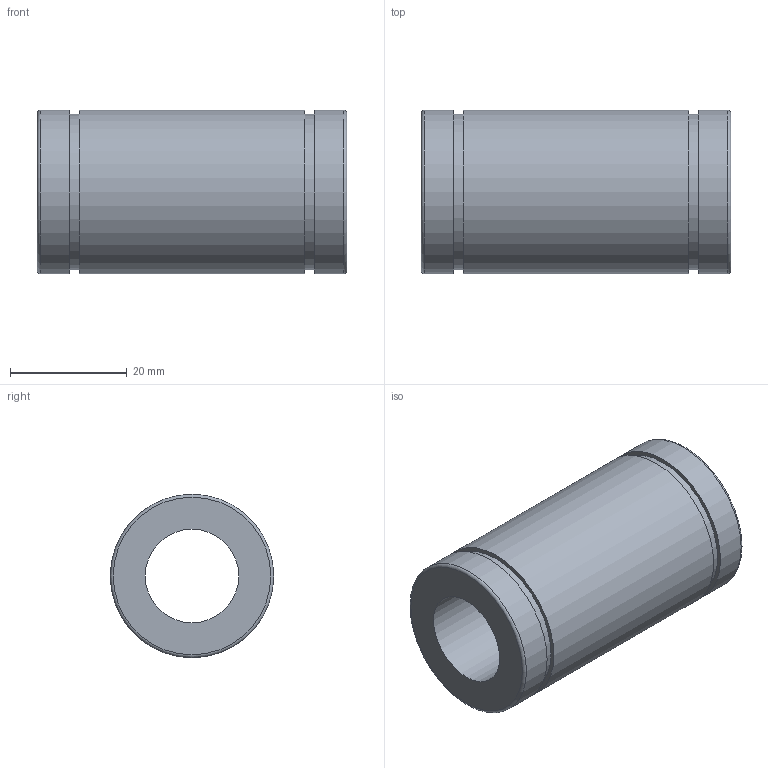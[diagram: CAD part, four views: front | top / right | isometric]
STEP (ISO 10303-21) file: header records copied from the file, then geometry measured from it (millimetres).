
FILE_DESCRIPTION(('STEP AP203'),'1');
FILE_NAME('//192.168.1.1/share/s-4 技術開発/s-4-13_CAD/03_見直し済み/001 修正済み/N-VM/N-VM_STEP/N-16VM.step','2020-04-08T00:09:55',(' '),(' '),'Spatial InterOp 3D',' ',' ');
FILE_SCHEMA(('CONFIG_CONTROL_DESIGN'));
Length unit declared in the file: millimetre
Products named in the file (1): 1
Bounding box: 53 x 28 x 28 mm (x, y, z)
Volume: 21771.1 mm3; surface area: 8343.2 mm2
Topology: 1 solids, 1 shells, 14 faces, 22 edges, 14 vertices
Faces by surface type: plane 6, cylinder 6, torus 2
Full cylindrical faces by diameter (mm): 16 x1, 26.6 x2, 28 x3
Entity records: 332 total; most frequent: DIRECTION 58, CARTESIAN_POINT 43, AXIS2_PLACEMENT_3D 29, EDGE_LOOP 28, ORIENTED_EDGE 28, FACE_OUTER_BOUND 22, ADVANCED_FACE 14, EDGE_CURVE 14
